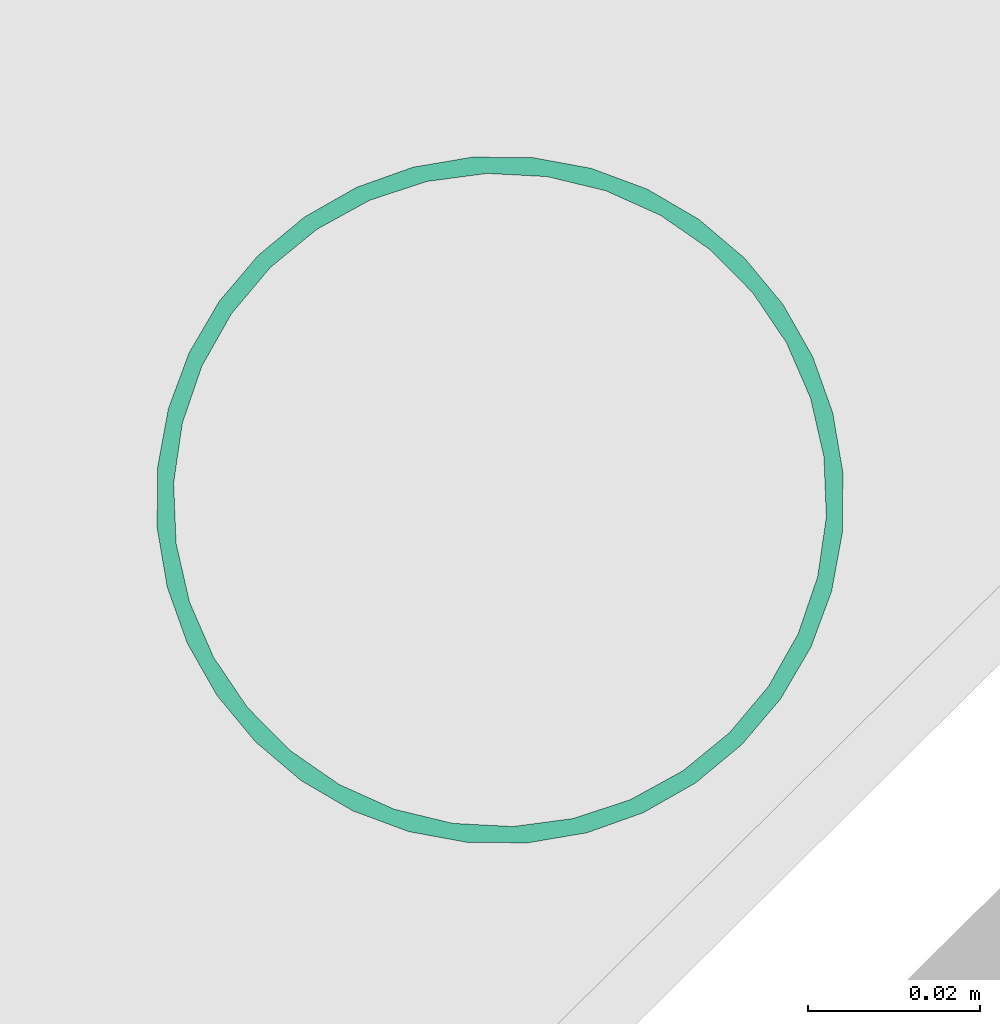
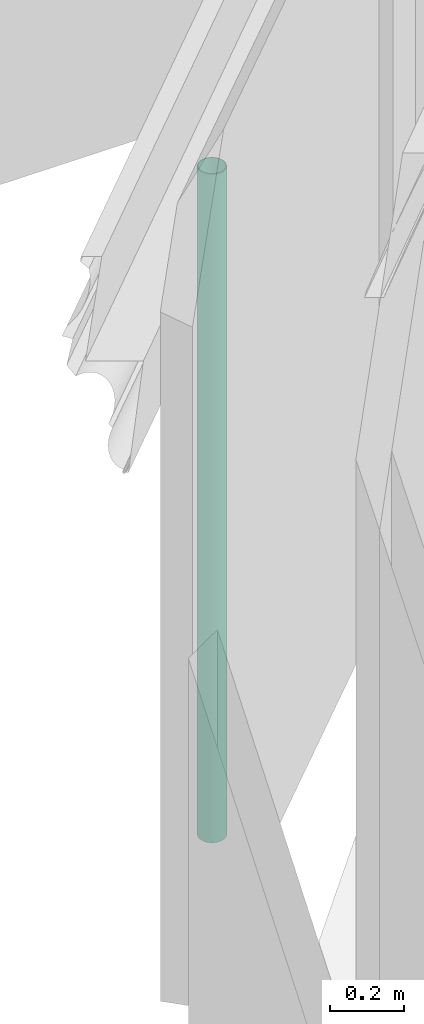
# One storey, part 71 of 72: 1 flow segment.
"""IFC2X3 building model written with IfcOpenShell, lengths in centimetres."""

from ifc_helpers import new_model, entity, si_unit, converted_unit, direction, frame, origin, origin_with_axes, place, context, subcontext, project, spatial, faceted_brep, material, type_object, element, save


model = new_model("IFC2X3")

# Units and contexts
model_context = context("Model", 3, precision=0.0001, world=origin(), true_north=direction((0.225632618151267, 0.974212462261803, 0.0)))
body_context = subcontext(model_context, "Body", "Model", "MODEL_VIEW")
ifc_project = project(units=[si_unit("LENGTHUNIT", "METRE", prefix="CENTI"), si_unit("AREAUNIT", "SQUARE_METRE", prefix="CENTI"), si_unit("VOLUMEUNIT", "CUBIC_METRE", prefix="CENTI"), converted_unit("PLANEANGLEUNIT", "DEGREE", entity("IfcRatioMeasure", 0.0174532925), si_unit("PLANEANGLEUNIT", "RADIAN"), dimensions=[0, 0, 0, 0, 0, 0, 0])], contexts=[model_context])

# Site, building, storey
site_placement = place(None, origin_with_axes())
site = spatial("IfcSite", under=ifc_project, at=site_placement, Name="Default Site", CompositionType="ELEMENT")
building_placement = place(site_placement, origin_with_axes())
building = spatial("IfcBuilding", under=site, at=building_placement, Name="Default Building", CompositionType="ELEMENT")
storey_placement = place(building_placement, frame((0.0, 0.0, 853.910374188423), z_axis=(0.0, 0.0, 1.0), x_axis=(1.0, 0.0, 0.0)))
storey = spatial("IfcBuildingStorey", under=building, at=storey_placement, Name="Niveau 2", CompositionType="ELEMENT", Elevation=853.910374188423)

# Flow segment
ifc_material = material(Name="Aluminium mat")
pipe_segment_type = type_object("IfcPipeSegmentType", Name="Default Flow Segment Type", PredefinedType="GUTTER", material=ifc_material)
flow_segment_placement = place(storey_placement, frame((-1188.67746897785, -634.831921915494, 220.0), z_axis=(0.0, 0.0, 1.0), x_axis=(0.711347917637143, 0.702840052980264, 0.0)))
element("IfcFlowSegment", 1, at=flow_segment_placement, inside=storey, type_object=pipe_segment_type, material=ifc_material, Name="Descente 1905138", context=body_context, shape_type="Brep", body=[
    faceted_brep([(-1.08565032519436e-06, 4.00001171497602, -220.000023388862), (-0.694600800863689, 3.93924211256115, -220.000023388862), (-0.694600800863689, 3.93924211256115, -4.24623488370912e-05), (-1.08565032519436e-06, 4.00001171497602, -4.24623488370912e-05), (-0.694598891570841, 3.93922028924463, -220.000023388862), (-1.36810224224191, 3.75875559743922, -220.000023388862), (-1.36810224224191, 3.75875559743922, -4.24623488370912e-05), (-0.694598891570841, 3.93922028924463, -4.24623488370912e-05), (-1.36811120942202, 3.75878906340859, -220.000023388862), (-1.99999953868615, 3.46413470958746, -220.000023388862), (-1.99999953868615, 3.46413470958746, -4.24623488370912e-05), (-1.36811120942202, 3.75878906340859, -4.24623488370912e-05), (-1.99996847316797, 3.46406808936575, -220.000023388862), (-2.57113524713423, 3.06413280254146, -220.000023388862), (-2.57113524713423, 3.06413280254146, -4.24623488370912e-05), (-1.99996847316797, 3.46406808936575, -4.24623488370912e-05), (-2.57114089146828, 3.06414086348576, -220.000023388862), (-3.0641667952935, 2.57111495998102, -220.000023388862), (-3.0641667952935, 2.57111495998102, -4.24623488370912e-05), (-2.57114089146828, 3.06414086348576, -4.24623488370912e-05), (-3.0641679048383, 2.57111606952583, -220.000023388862), (-3.46408488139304, 1.99997543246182, -220.000023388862), (-3.46408488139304, 1.99997543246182, -4.24623488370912e-05), (-3.0641679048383, 2.57111606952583, -4.24623488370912e-05), (-3.46410144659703, 1.99998703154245, -220.000023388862), (-3.75876187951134, 1.36808570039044, -220.000023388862), (-3.75876187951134, 1.36808570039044, -4.24623488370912e-05), (-3.46410144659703, 1.99998703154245, -4.24623488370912e-05), (-3.75877243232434, 1.36809062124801, -220.000023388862), (-3.93923958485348, 0.6945780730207, -220.000023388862), (-3.93923958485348, 0.6945780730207, -4.24623488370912e-05), (-3.75877243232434, 1.36809062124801, -4.24623488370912e-05), (-3.93919211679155, 0.694565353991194, -220.000023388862), (-3.9999581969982, 5.78933026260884e-06, -220.000023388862), (-3.9999581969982, 5.78933026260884e-06, -4.24623488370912e-05), (-3.93919211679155, 0.694565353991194, -4.24623488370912e-05), (-4.00002210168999, 1.13802656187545e-05, -220.000023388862), (-3.93924933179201, -0.694624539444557, -220.000023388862), (-3.93924933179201, -0.694624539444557, -4.24623488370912e-05), (-4.00002210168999, 1.13802656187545e-05, -4.24623488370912e-05), (-3.93919675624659, -0.69461993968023, -220.000023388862), (-3.75874895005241, -1.36806027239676, -220.000023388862), (-3.75874895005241, -1.36806027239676, -4.24623488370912e-05), (-3.93919675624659, -0.69461993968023, -4.24623488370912e-05), (-3.75876593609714, -1.36806482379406, -220.000023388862), (-3.46409756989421, -1.99998320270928, -220.000023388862), (-3.46409756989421, -1.99998320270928, -4.24623488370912e-05), (-3.75876593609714, -1.36806482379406, -4.24623488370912e-05), (-3.46411199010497, -1.99998992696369, -220.000023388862), (-3.06420360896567, -2.57111827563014, -220.000023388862), (-3.06420360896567, -2.57111827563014, -4.24623488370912e-05), (-3.46411199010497, -1.99998992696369, -4.24623488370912e-05), (-3.06421868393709, -2.57112883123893, -220.000023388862), (-2.57119278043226, -3.06415473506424, -220.000023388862), (-2.57119278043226, -3.06415473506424, -4.24623488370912e-05), (-3.06421868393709, -2.57112883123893, -4.24623488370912e-05), (-2.57119388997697, -3.06415584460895, -220.000023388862), (-2.00000819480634, -3.46410437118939, -220.000023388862), (-2.00000819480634, -3.46410437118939, -4.24623488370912e-05), (-2.57119388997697, -3.06415584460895, -4.24623488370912e-05), (-1.99999741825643, -3.464088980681, -220.000023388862), (-1.36809608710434, -3.75874941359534, -220.000023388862), (-1.36809608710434, -3.75874941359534, -4.24623488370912e-05), (-1.99999741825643, -3.464088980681, -4.24623488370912e-05), (-1.3681010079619, -3.75875996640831, -220.000023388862), (-0.694571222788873, -3.93923173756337, -220.000023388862), (-0.694571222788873, -3.93923173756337, -4.24623488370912e-05), (-1.3681010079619, -3.75875996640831, -4.24623488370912e-05), (-0.694575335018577, -3.93924708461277, -220.000023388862), (1.45440433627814e-05, -4.00001581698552, -220.000023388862), (1.45440433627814e-05, -4.00001581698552, -4.24623488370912e-05), (-0.694575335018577, -3.93924708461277, -4.24623488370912e-05), (1.21527323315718e-05, -4.0000431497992, -220.000023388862), (0.694611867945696, -3.93927354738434, -220.000023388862), (0.694611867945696, -3.93927354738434, -4.24623488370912e-05), (1.21527323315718e-05, -4.0000431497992, -4.24623488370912e-05), (0.694609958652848, -3.93925172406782, -220.000023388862), (1.36806677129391, -3.75879950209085, -220.000023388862), (1.36806677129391, -3.75879950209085, -4.24623488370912e-05), (0.694609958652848, -3.93925172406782, -4.24623488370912e-05), (1.36805443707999, -3.75875347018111, -220.000023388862), (1.99997281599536, -3.46408510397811, -220.000023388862), (1.99997281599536, -3.46408510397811, -4.24623488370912e-05), (1.36805443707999, -3.75875347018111, -4.24623488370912e-05), (1.9999795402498, -3.46409952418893, -220.000023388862), (2.57114631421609, -3.06416423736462, -220.000023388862), (2.57114631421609, -3.06416423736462, -4.24623488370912e-05), (1.9999795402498, -3.46409952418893, -4.24623488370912e-05), (2.57115195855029, -3.06417229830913, -220.000023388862), (3.06417786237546, -2.57114639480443, -220.000023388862), (3.06417786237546, -2.57114639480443, -4.24623488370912e-05), (2.57115195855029, -3.06417229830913, -4.24623488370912e-05), (3.06417897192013, -2.5711475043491, -220.000023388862), (3.46409594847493, -2.00000686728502, -220.000023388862), (3.46409594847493, -2.00000686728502, -4.24623488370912e-05), (3.06417897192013, -2.5711475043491, -4.24623488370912e-05), (3.46411251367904, -2.00001846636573, -220.000023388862), (3.75877294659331, -1.36811713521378, -220.000023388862), (3.75877294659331, -1.36811713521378, -4.24623488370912e-05), (3.46411251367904, -2.00001846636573, -4.24623488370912e-05), (3.75878349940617, -1.36812205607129, -220.000023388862), (3.93925065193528, -0.69460950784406, -220.000023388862), (3.93925065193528, -0.69460950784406, -4.24623488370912e-05), (3.75878349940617, -1.36812205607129, -4.24623488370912e-05), (3.93920318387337, -0.694596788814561, -220.000023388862), (3.99997456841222, 2.34046485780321e-05, -220.000023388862), (3.99997456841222, 2.34046485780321e-05, -4.24623488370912e-05), (3.93920318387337, -0.694596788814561, -4.24623488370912e-05), (3.99996532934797, 2.4212961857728e-05, -220.000023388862), (3.93919889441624, 0.69458772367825, -220.000023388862), (3.93919889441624, 0.69458772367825, -4.24623488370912e-05), (3.99996532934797, 2.4212961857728e-05, -4.24623488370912e-05), (3.93920782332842, 0.694588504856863, -220.000023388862), (3.75875378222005, 1.36805210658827, -220.000023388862), (3.75875378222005, 1.36805210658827, -4.24623488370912e-05), (3.93920782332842, 0.694588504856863, -4.24623488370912e-05), (3.75881051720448, 1.36806730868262, -220.000023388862), (3.46414915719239, 1.99997066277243, -220.000023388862), (3.46414915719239, 1.99997066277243, -4.24623488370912e-05), (3.75881051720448, 1.36806730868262, -4.24623488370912e-05), (3.4641230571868, 1.9999584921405, -220.000023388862), (3.06416086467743, 2.57116369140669, -220.000023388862), (3.06416086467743, 2.57116369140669, -4.24623488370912e-05), (3.4641230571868, 1.9999584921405, -4.24623488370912e-05), (3.06416191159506, 2.57116442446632, -220.000023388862), (2.57113600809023, 3.06419032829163, -220.000023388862), (2.57113600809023, 3.06419032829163, -4.24623488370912e-05), (3.06416191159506, 2.57116442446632, -4.24623488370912e-05), (2.57113711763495, 3.06419143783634, -220.000023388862), (2.00003498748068, 3.46408145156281, -220.000023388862), (2.00003498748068, 3.46408145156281, -4.24623488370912e-05), (2.57113711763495, 3.06419143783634, -4.24623488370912e-05), (2.00004199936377, 3.46409146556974, -220.000023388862), (1.36804473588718, 3.75879663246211, -220.000023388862), (1.36804473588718, 3.75879663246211, -4.24623488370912e-05), (2.00004199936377, 3.46409146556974, -4.24623488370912e-05), (1.36804423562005, 3.75879555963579, -220.000023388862), (0.694594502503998, 3.93924588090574, -220.000023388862), (0.694594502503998, 3.93924588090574, -4.24623488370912e-05), (1.36804423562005, 3.75879555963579, -4.24623488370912e-05), (0.694586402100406, 3.9392156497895, -220.000023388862), (-3.47696136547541e-06, 3.99998438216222, -220.000023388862), (-3.47696136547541e-06, 3.99998438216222, -4.24623488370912e-05), (0.694586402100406, 3.9392156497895, -4.24623488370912e-05), (-1.16264647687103e-05, 3.79999594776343, -220.000023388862), (0.698239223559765, 3.73529348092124, -220.000023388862), (0.698239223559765, 3.73529348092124, -4.24623488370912e-05), (-1.16264647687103e-05, 3.79999594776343, -4.24623488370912e-05), (0.698240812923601, 3.73531063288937, -220.000023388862), (1.37270500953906, 3.54340902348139, -220.000023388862), (1.37270500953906, 3.54340902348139, -4.24623488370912e-05), (0.698240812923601, 3.73531063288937, -4.24623488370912e-05), (1.37271168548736, 3.54343248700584, -220.000023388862), (2.00044651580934, 3.23085769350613, -220.000023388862), (2.00044651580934, 3.23085769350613, -4.24623488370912e-05), (1.37271168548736, 3.54343248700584, -4.24623488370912e-05), (2.00043376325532, 3.23083208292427, -220.000023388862), (2.56007257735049, 2.80821247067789, -220.000023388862), (2.56007257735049, 2.80821247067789, -4.24623488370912e-05), (2.00043376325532, 3.23083208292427, -4.24623488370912e-05), (2.56006658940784, 2.8082045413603, -220.000023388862), (3.03248720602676, 2.28998381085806, -220.000023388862), (3.03248720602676, 2.28998381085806, -4.24623488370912e-05), (2.56006658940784, 2.8082045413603, -4.24623488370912e-05), (3.03250622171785, 2.29000114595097, -220.000023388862), (3.4016386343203, 1.69383184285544, -220.000023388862), (3.4016386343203, 1.69383184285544, -4.24623488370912e-05), (3.03250622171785, 2.29000114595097, -4.24623488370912e-05), (3.40163065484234, 1.69382690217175, -220.000023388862), (3.65496339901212, 1.0398996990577, -220.000023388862), (3.65496339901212, 1.0398996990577, -4.24623488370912e-05), (3.40163065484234, 1.69382690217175, -4.24623488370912e-05), (3.65497740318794, 1.03990512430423, -220.000023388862), (3.78382922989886, 0.350608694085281, -220.000023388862), (3.78382922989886, 0.350608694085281, -4.24623488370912e-05), (3.65497740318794, 1.03990512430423, -4.24623488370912e-05), (3.78381377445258, 0.350605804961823, -220.000023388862), (3.78381375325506, -0.350629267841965, -220.000023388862), (3.78381375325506, -0.350629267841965, -4.24623488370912e-05), (3.78381377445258, 0.350605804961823, -4.24623488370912e-05), (3.78381769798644, -0.350629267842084, -220.000023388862), (3.65495873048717, -1.03996386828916, -220.000023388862), (3.65495873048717, -1.03996386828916, -4.24623488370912e-05), (3.78381769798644, -0.350629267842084, -4.24623488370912e-05), (3.65494691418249, -1.03996165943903, -220.000023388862), (3.40164511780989, -1.69380895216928, -220.000023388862), (3.40164511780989, -1.69380895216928, -4.24623488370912e-05), (3.65494691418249, -1.03996165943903, -4.24623488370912e-05), (3.40161141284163, -1.69379589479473, -220.000023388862), (3.03246014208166, -2.28999566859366, -220.000023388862), (3.03246014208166, -2.28999566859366, -4.24623488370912e-05), (3.40161141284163, -1.69379589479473, -4.24623488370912e-05), (3.03251235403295, -2.29002799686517, -220.000023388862), (2.56006526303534, -2.80827776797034, -220.000023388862), (2.56006526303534, -2.80827776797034, -4.24623488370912e-05), (3.03251235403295, -2.29002799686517, -4.24623488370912e-05), (2.56003638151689, -2.80825143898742, -220.000023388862), (2.00045205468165, -3.2308299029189, -220.000023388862), (2.00045205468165, -3.2308299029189, -4.24623488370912e-05), (2.56003638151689, -2.80825143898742, -4.24623488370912e-05), (2.00043049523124, -3.23080135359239, -220.000023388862), (1.37269728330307, -3.54337534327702, -220.000023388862), (1.37269728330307, -3.54337534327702, -4.24623488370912e-05), (2.00043049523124, -3.23080135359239, -4.24623488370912e-05), (1.37272716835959, -3.54343536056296, -220.000023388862), (0.698249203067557, -3.73534089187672, -220.000023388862), (0.698249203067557, -3.73534089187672, -4.24623488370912e-05), (1.37272716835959, -3.54343536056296, -4.24623488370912e-05), (0.698238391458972, -3.73530289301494, -220.000023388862), (2.03701940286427e-05, -3.80000230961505, -220.000023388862), (2.03701940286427e-05, -3.80000230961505, -4.24623488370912e-05), (0.698238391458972, -3.73530289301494, -4.24623488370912e-05), (2.2693546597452e-05, -3.80002738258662, -220.000023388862), (-0.698228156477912, -3.73532491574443, -220.000023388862), (-0.698228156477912, -3.73532491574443, -4.24623488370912e-05), (2.2693546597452e-05, -3.80002738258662, -4.24623488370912e-05), (-0.698229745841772, -3.73534206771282, -220.000023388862), (-1.3727522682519, -3.54342386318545, -220.000023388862), (-1.3727522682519, -3.54342386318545, -4.24623488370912e-05), (-0.698229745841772, -3.73534206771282, -4.24623488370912e-05), (-1.37273494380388, -3.54336297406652, -220.000023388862), (-2.00040198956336, -3.23082193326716, -220.000023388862), (-2.00040198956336, -3.23082193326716, -4.24623488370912e-05), (-1.37273494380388, -3.54336297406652, -4.24623488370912e-05), (-2.00042269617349, -3.23086351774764, -220.000023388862), (-2.56006151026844, -2.80824390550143, -220.000023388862), (-2.56006151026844, -2.80824390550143, -4.24623488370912e-05), (-2.00042269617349, -3.23086351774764, -4.24623488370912e-05), (-2.56005552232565, -2.80823597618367, -220.000023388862), (-3.03247781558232, -2.29001340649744, -220.000023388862), (-3.03247781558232, -2.29001340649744, -4.24623488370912e-05), (-2.56005552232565, -2.80823597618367, -4.24623488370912e-05), (-3.03246164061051, -2.28999866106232, -220.000023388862), (-3.40159405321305, -1.69382935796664, -220.000023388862), (-3.40159405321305, -1.69382935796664, -4.24623488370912e-05), (-3.03246164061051, -2.28999866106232, -4.24623488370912e-05), (-3.40158607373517, -1.69382441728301, -220.000023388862), (-3.6549188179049, -1.03989721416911, -220.000023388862), (-3.6549188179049, -1.03989721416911, -4.24623488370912e-05), (-3.40158607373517, -1.69382441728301, -4.24623488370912e-05), (-3.65493282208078, -1.03990263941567, -220.000023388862), (-3.783779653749, -0.350632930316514, -220.000023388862), (-3.783779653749, -0.350632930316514, -4.24623488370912e-05), (-3.65493282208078, -1.03990263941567, -4.24623488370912e-05), (-3.78380270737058, -0.350637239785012, -220.000023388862), (-3.78380268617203, 0.35063175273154, -220.000023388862), (-3.78380268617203, 0.35063175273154, -4.24623488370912e-05), (-3.78380270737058, -0.350637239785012, -4.24623488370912e-05), (-3.78377311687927, 0.350631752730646, -220.000023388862), (-3.65492140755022, 1.03992752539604, -220.000023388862), (-3.65492140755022, 1.03992752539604, -4.24623488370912e-05), (-3.78377311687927, 0.350631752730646, -4.24623488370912e-05), (-3.65493584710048, 1.03993022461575, -220.000023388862), (-3.40163405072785, 1.69377751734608, -220.000023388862), (-3.40163405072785, 1.69377751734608, -4.24623488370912e-05), (-3.65493584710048, 1.03993022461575, -4.24623488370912e-05), (-3.40160034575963, 1.69376445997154, -220.000023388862), (-3.03242460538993, 2.29000375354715, -220.000023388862), (-3.03242460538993, 2.29000375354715, -4.24623488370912e-05), (-3.40160034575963, 1.69376445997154, -4.24623488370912e-05), (-3.03246777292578, 2.29003048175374, -220.000023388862), (-2.56005278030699, 2.80824504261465, -220.000023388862), (-2.56005278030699, 2.80824504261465, -4.24623488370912e-05), (-3.03246777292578, 2.29003048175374, -4.24623488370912e-05), (-2.56002531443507, 2.80822000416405, -220.000023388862), (-2.00045195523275, 3.23079018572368, -220.000023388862), (-2.00045195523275, 3.23079018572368, -4.24623488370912e-05), (-2.56002531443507, 2.80822000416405, -4.24623488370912e-05), (-2.00048726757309, 3.23083694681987, -220.000023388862), (-1.37272643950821, 3.54342468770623, -220.000023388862), (-1.37272643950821, 3.54342468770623, -4.24623488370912e-05), (-2.00048726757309, 3.23083694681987, -4.24623488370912e-05), (-1.37271610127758, 3.54340392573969, -220.000023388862), (-0.698238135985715, 3.7353094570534, -220.000023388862), (-0.698238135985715, 3.7353094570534, -4.24623488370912e-05), (-1.37271610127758, 3.54340392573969, -4.24623488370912e-05), (-0.698227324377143, 3.73527145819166, -220.000023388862), (-9.30311219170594e-06, 3.79997087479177, -220.000023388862), (-9.30311219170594e-06, 3.79997087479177, -4.24623488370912e-05), (-0.698227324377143, 3.73527145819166, -4.24623488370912e-05)], [[[0, 1, 2, 3]], [[4, 5, 6, 7]], [[8, 9, 10, 11]], [[12, 13, 14, 15]], [[16, 17, 18, 19]], [[20, 21, 22, 23]], [[24, 25, 26, 27]], [[28, 29, 30, 31]], [[32, 33, 34, 35]], [[36, 37, 38, 39]], [[40, 41, 42, 43]], [[44, 45, 46, 47]], [[48, 49, 50, 51]], [[52, 53, 54, 55]], [[56, 57, 58, 59]], [[60, 61, 62, 63]], [[64, 65, 66, 67]], [[68, 69, 70, 71]], [[72, 73, 74, 75]], [[76, 77, 78, 79]], [[80, 81, 82, 83]], [[84, 85, 86, 87]], [[88, 89, 90, 91]], [[92, 93, 94, 95]], [[96, 97, 98, 99]], [[100, 101, 102, 103]], [[104, 105, 106, 107]], [[108, 109, 110, 111]], [[112, 113, 114, 115]], [[116, 117, 118, 119]], [[120, 121, 122, 123]], [[124, 125, 126, 127]], [[128, 129, 130, 131]], [[132, 133, 134, 135]], [[136, 137, 138, 139]], [[140, 141, 142, 143]], [[144, 145, 146, 147]], [[148, 149, 150, 151]], [[152, 153, 154, 155]], [[156, 157, 158, 159]], [[160, 161, 162, 163]], [[164, 165, 166, 167]], [[168, 169, 170, 171]], [[172, 173, 174, 175]], [[176, 177, 178, 179]], [[180, 181, 182, 183]], [[184, 185, 186, 187]], [[188, 189, 190, 191]], [[192, 193, 194, 195]], [[196, 197, 198, 199]], [[200, 201, 202, 203]], [[204, 205, 206, 207]], [[208, 209, 210, 211]], [[212, 213, 214, 215]], [[216, 217, 218, 219]], [[220, 221, 222, 223]], [[224, 225, 226, 227]], [[228, 229, 230, 231]], [[232, 233, 234, 235]], [[236, 237, 238, 239]], [[240, 241, 242, 243]], [[244, 245, 246, 247]], [[248, 249, 250, 251]], [[252, 253, 254, 255]], [[256, 257, 258, 259]], [[260, 261, 262, 263]], [[264, 265, 266, 267]], [[268, 269, 270, 271]], [[272, 273, 274, 275]], [[276, 277, 278, 279]], [[3, 7, 11, 15, 19, 23, 27, 31, 35, 39, 43, 47, 51, 55, 59, 63, 67, 71, 75, 79, 83, 87, 91, 95, 99, 103, 107, 111, 115, 119, 123, 127, 131, 135, 139, 143], [147, 151, 155, 159, 163, 167, 171, 175, 179, 183, 187, 191, 195, 199, 203, 207, 211, 215, 219, 223, 227, 231, 235, 239, 243, 247, 251, 255, 259, 263, 267, 271, 275, 279]], [[140, 136, 132, 128, 124, 120, 116, 112, 108, 104, 100, 96, 92, 88, 84, 80, 76, 72, 68, 64, 60, 56, 52, 48, 44, 40, 36, 32, 28, 24, 20, 16, 12, 8, 4, 0], [276, 272, 268, 264, 260, 256, 252, 248, 244, 240, 236, 232, 228, 224, 220, 216, 212, 208, 204, 200, 196, 192, 188, 184, 180, 176, 172, 168, 164, 160, 156, 152, 148, 144]]]),
])

save(model, "model.ifc")
